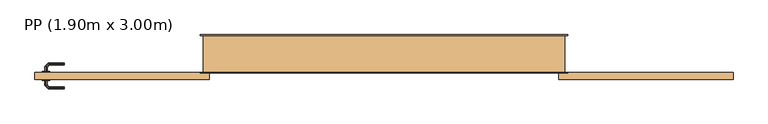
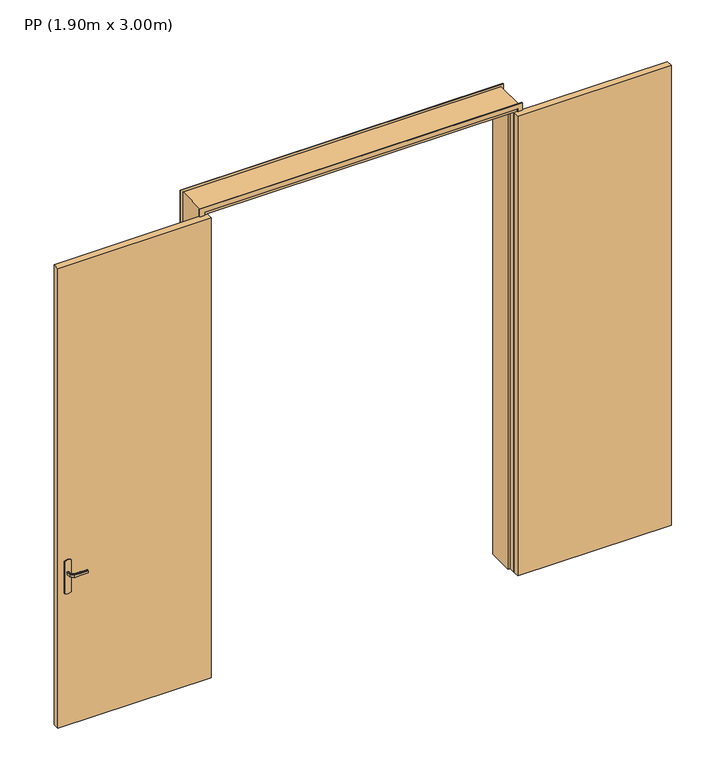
"""IFC4 building model written with IfcOpenShell, lengths in millimetres: door geometry, PP (1.90m x 3.00m)."""

from ifc_helpers import new_model, si_unit, frame, origin, origin_with_axes, place, context, project, spatial, polyline, outline, extrude, faceted_brep, source, transform, mapped, element, save


def pp_1_90m_x_3_00m_ce5c263e(model_context):
    return source(origin(), model_context, "Body", "SolidModel", [
        extrude(outline(polyline([(0.0, 2055.0), (3060.0, 2055.0), (3060.0, 55.0), (0.0, 55.0), (0.0, 85.0), (3030.0, 85.0), (3030.0, 2025.0), (0.0, 2025.0), (0.0, 2055.0)])), frame((0.0, 200.0, 0.0), z_axis=(0.0, 1.0, 0.0), x_axis=(0.0, 0.0, 1.0)), (0.0, 0.0, 1.0), 5.0),
        faceted_brep([(-782.9747013, 5.0, 1007.7804408), (-787.0252987, 5.0, 1007.7804408), (-791.0, 5.0, 1007.0), (-791.0, 5.0, 993.0), (-787.0252987, 5.0, 992.2195592), (-782.9747013, 5.0, 992.2195592), (-779.0, 5.0, 993.0), (-779.0, 5.0, 1007.0), (-787.0252987, 31.0045755, 1007.7804408), (-791.0, 32.6509507, 1007.0), (-782.9747013, 29.3267632, 1007.7804408), (-769.2986025, 43.002862, 1007.7804408), (-770.9764148, 47.0534593, 1007.7804408), (-779.0, 27.680388, 1007.0), (-779.0, 27.680388, 993.0), (-782.9747013, 29.3267632, 992.2195592), (-787.0252987, 31.0045755, 992.2195592), (-770.9764148, 47.0534593, 992.2195592), (-769.2986025, 43.002862, 992.2195592), (-791.0, 32.6509507, 993.0), (-772.62279, 51.0281607, 1007.0), (-767.6522273, 39.0281607, 1007.0), (-767.6522273, 39.0281607, 993.0), (-772.62279, 51.0281607, 993.0), (-684.9813594, 51.0281607, 1007.0), (-684.9813594, 47.0534593, 1007.7804408), (-684.9813594, 43.002862, 1007.7804408), (-684.9813594, 39.0281607, 1007.0), (-684.9813594, 39.0281607, 993.0), (-684.9813594, 43.002862, 992.2195592), (-684.9813594, 47.0534593, 992.2195592), (-684.9813594, 51.0281607, 993.0), (-727.1399809, 45.0281607, 1007.8786868), (-732.6923028, 51.0281607, 1007.0), (-726.3167933, 39.0281607, 1007.0), (-726.3167933, 39.0281607, 993.0), (-727.1399811, 45.0281608, 992.1213132), (-732.6923104, 51.0281607, 993.0)], [[[0, 1, 2, 3, 4, 5, 6, 7]], [[2, 1, 8, 9]], [[1, 0, 10, 11, 12, 8]], [[0, 7, 13, 10]], [[14, 13, 7, 6]], [[5, 15, 14, 6]], [[5, 4, 16, 17, 18, 15]], [[3, 19, 16, 4]], [[9, 19, 3, 2]], [[9, 8, 12, 20]], [[10, 13, 21, 11]], [[22, 21, 13, 14]], [[14, 15, 18, 22]], [[16, 19, 23, 17]], [[20, 23, 19, 9]], [[24, 25, 26, 27, 28, 29, 30, 31]], [[32, 25, 33]], [[33, 25, 24]], [[33, 20, 12]], [[11, 34, 32]], [[34, 11, 21]], [[27, 26, 34]], [[32, 26, 25]], [[32, 34, 26]], [[32, 33, 12]], [[11, 32, 12]], [[21, 22, 35, 28, 27, 34]], [[36, 29, 35]], [[30, 36, 37]], [[18, 35, 22]], [[29, 28, 35]], [[30, 37, 31]], [[37, 17, 23]], [[36, 17, 37]], [[36, 18, 17]], [[36, 35, 18]], [[29, 36, 30]], [[23, 20, 33, 24, 31, 37]]]),
        faceted_brep([(2040.0, 0.0, 0.0), (2005.0, 0.0, 0.0), (2005.0, 40.0, 0.0), (1990.0, 40.0, 0.0), (1990.0, 200.0, 0.0), (2040.0, 200.0, 0.0), (2040.0, 200.0, 3045.0), (2040.0, 0.0, 3045.0), (1990.0, 200.0, 2995.0), (120.0, 200.0, 2995.0), (120.0, 200.0, 0.0), (70.0, 200.0, 0.0), (70.0, 200.0, 3045.0), (1990.0, 40.0, 2995.0), (2005.0, 40.0, 3010.0), (105.0, 40.0, 3010.0), (105.0, 40.0, 0.0), (120.0, 40.0, 0.0), (120.0, 40.0, 2995.0), (2005.0, 0.0, 3010.0), (70.0, 0.0, 3045.0), (70.0, 0.0, 0.0), (105.0, 0.0, 0.0), (105.0, 0.0, 3010.0)], [[[0, 1, 2, 3, 4, 5]], [[5, 6, 7, 0]], [[4, 8, 9, 10, 11, 12, 6, 5]], [[3, 13, 8, 4]], [[2, 14, 15, 16, 17, 18, 13, 3]], [[1, 19, 14, 2]], [[0, 7, 20, 21, 22, 23, 19, 1]], [[12, 11, 21, 20]], [[21, 11, 10, 17, 16, 22]], [[18, 17, 10, 9]], [[23, 22, 16, 15]], [[6, 12, 20, 7]], [[13, 18, 9, 8]], [[19, 23, 15, 14]]]),
        extrude(outline(polyline([(0.0, 2055.0), (3060.0, 2055.0), (3060.0, 55.0), (0.0, 55.0), (0.0, 85.0), (3030.0, 85.0), (3030.0, 2025.0), (0.0, 2025.0), (0.0, 2055.0)])), frame((0.0, -5.0, 0.0), z_axis=(0.0, 1.0, 0.0), x_axis=(0.0, 0.0, 1.0)), (0.0, 0.0, 1.0), 5.0),
        extrude(outline(polyline([(1085.3589838, -785.0), (1083.9960169, -795.3527618), (1080.0, -805.0), (870.0, -805.0), (866.0039831, -795.3527618), (864.6410162, -785.0), (866.0039831, -774.6472382), (870.0, -765.0), (1080.0, -765.0), (1083.9960169, -774.6472382), (1085.3589838, -785.0)])), frame((0.0, -45.0, 0.0), z_axis=(0.0, 1.0, 0.0), x_axis=(0.0, 0.0, 1.0)), (0.0, 0.0, 1.0), 5.0),
        extrude(outline(polyline([(-845.0, -40.0), (-845.0, 0.0), (105.0, 0.0), (105.0, -40.0), (-845.0, -40.0)])), origin_with_axes(), (0.0, 0.0, 1.0), 3010.0),
        extrude(outline(polyline([(1080.0, -805.0), (870.0, -805.0), (866.0039831, -795.3527618), (864.6410162, -785.0), (866.0039831, -774.6472382), (870.0, -765.0), (1080.0, -765.0), (1083.9960169, -774.6472382), (1085.3589838, -785.0), (1083.9960169, -795.3527618), (1080.0, -805.0)])), frame((0.0, 0.0, 0.0), z_axis=(0.0, 1.0, 0.0), x_axis=(0.0, 0.0, 1.0)), (0.0, 0.0, 1.0), 5.0),
        faceted_brep([(-782.9747013, -45.0, 992.2195592), (-787.0252987, -45.0, 992.2195592), (-791.0, -45.0, 993.0), (-791.0, -45.0, 1007.0), (-787.0252987, -45.0, 1007.7804408), (-782.9747013, -45.0, 1007.7804408), (-779.0, -45.0, 1007.0), (-779.0, -45.0, 993.0), (-779.0, -67.4852045, 1007.0), (-779.0, -67.4852045, 993.0), (-782.9747013, -69.1315797, 1007.7804408), (-787.0252987, -70.8093921, 1007.7804408), (-770.8389062, -86.9957845, 1007.7804408), (-769.1610938, -82.9451872, 1007.7804408), (-791.0, -72.4557673, 1007.0), (-791.0, -72.4557673, 993.0), (-787.0252987, -70.8093921, 992.2195592), (-782.9747013, -69.1315797, 992.2195592), (-769.1610938, -82.9451872, 992.2195592), (-770.8389062, -86.9957845, 992.2195592), (-767.5147186, -78.9704859, 1007.0), (-767.5147186, -78.9704859, 993.0), (-772.4852814, -90.9704859, 1007.0), (-772.4852814, -90.9704859, 993.0), (-684.9542163, -82.9451872, 1007.7804408), (-684.9542163, -86.9957845, 1007.7804408), (-684.9542163, -90.9704859, 1007.0), (-684.9542163, -90.9704859, 993.0), (-684.9542163, -86.9957845, 992.2195592), (-684.9542163, -82.9451872, 992.2195592), (-684.9542163, -78.9704859, 993.0), (-684.9542163, -78.9704859, 1007.0), (-726.2344675, -78.9704859, 1007.0), (-726.2344794, -78.9704859, 993.0), (-727.0576551, -84.9704859, 1007.8786868), (-732.5547942, -90.9704859, 1007.0), (-732.5547957, -90.9704859, 993.0), (-727.0576549, -84.9704858, 992.1213132)], [[[0, 1, 2, 3, 4, 5, 6, 7]], [[8, 9, 7, 6]], [[5, 10, 8, 6]], [[5, 4, 11, 12, 13, 10]], [[3, 14, 11, 4]], [[14, 3, 2, 15]], [[2, 1, 16, 15]], [[1, 0, 17, 18, 19, 16]], [[0, 7, 9, 17]], [[20, 21, 9, 8]], [[8, 10, 13, 20]], [[14, 22, 12, 11]], [[23, 22, 14, 15]], [[15, 16, 19, 23]], [[17, 9, 21, 18]], [[24, 25, 26, 27, 28, 29, 30, 31]], [[21, 20, 32, 31, 30, 33]], [[34, 24, 32]], [[25, 34, 35]], [[13, 32, 20]], [[24, 31, 32]], [[25, 35, 26]], [[35, 12, 22]], [[34, 12, 35]], [[34, 13, 12]], [[34, 32, 13]], [[24, 34, 25]], [[22, 23, 36, 27, 26, 35]], [[37, 28, 36]], [[36, 28, 27]], [[36, 23, 19]], [[18, 33, 37]], [[33, 18, 21]], [[30, 29, 33]], [[37, 29, 28]], [[37, 33, 29]], [[37, 36, 19]], [[18, 37, 19]]]),
        extrude(outline(polyline([(2955.0, -40.0), (2005.0, -40.0), (2005.0, 0.0), (2955.0, 0.0), (2955.0, -40.0)])), origin_with_axes(), (0.0, 0.0, 1.0), 3010.0),
    ])


if __name__ == "__main__":
    model = new_model("IFC4")
    model_context = context("Model", 3, world=origin())
    ifc_project = project(units=[si_unit("LENGTHUNIT", "METRE", prefix="MILLI")], contexts=[model_context])
    site = spatial("IfcSite", under=ifc_project)
    building = spatial("IfcBuilding", under=site)
    placement = place(None, origin())
    pp_1_90m_x_3_00m_shape = pp_1_90m_x_3_00m_ce5c263e(model_context)
    element("IfcDoor", 1, ObjectType="PP (1.90m x 3.00m)", at=placement, inside=building, context=model_context, shape_type="MappedRepresentation", body=[
        mapped(pp_1_90m_x_3_00m_shape, transform((0.0, 0.0, 0.0), x_axis=(1.0, 0.0, 0.0), y_axis=(0.0, 1.0, 0.0), z_axis=(0.0, 0.0, 1.0))),
    ])
    save(model, "model.ifc")
